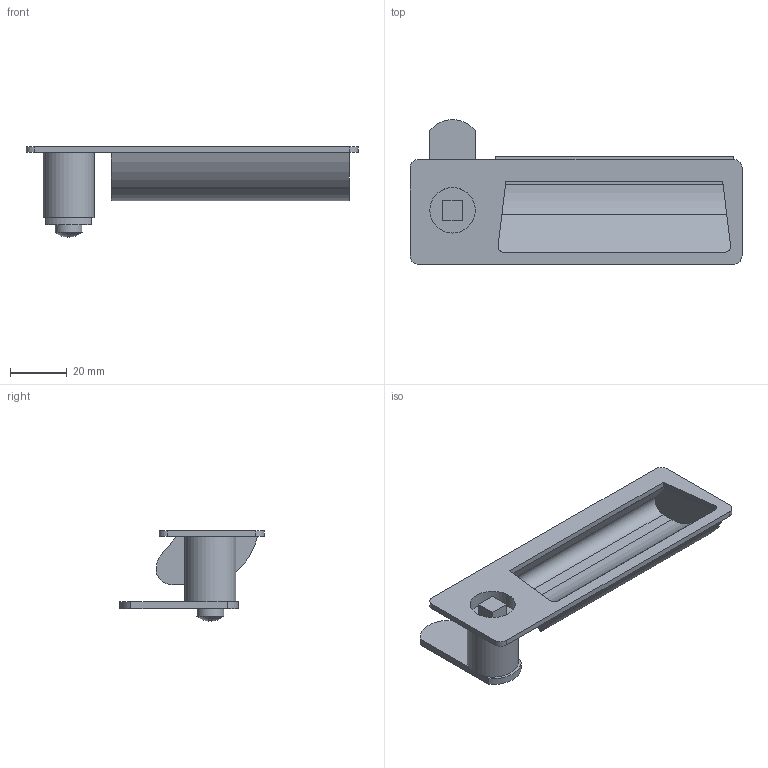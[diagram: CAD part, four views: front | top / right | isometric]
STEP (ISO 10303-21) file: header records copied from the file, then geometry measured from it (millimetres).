
FILE_DESCRIPTION( ( 'STEP AP203' ), '1' );
FILE_NAME( 'C:/Temp/Ganter_Step_05_03_2020/data/3_3/gn731_5/gn731_5_1/Latche with gripping tray GN 731.5-VK-0-32-1-SG (0-23).stp', '2020-03-12T11:49:19', ( 'License CC BY-ND 4.0' ), ( 'CADENAS' ), ' ', 'PARTsolutions', ' ' );
FILE_SCHEMA( ( 'CONFIG_CONTROL_DESIGN' ) );
Length unit declared in the file: millimetre
Products named in the file (3): Latche with gripping tray GN 731.5-VK-0-32-1-SG (0-23); _Latche with gripping tray GN 731.5-VK-0-32-1-SG (0)_1; _Latche with gripping tray GN 731.5-VK-0-32-1-SG (0-23)_2
Assembly tree (2 placements, depth 2):
  Latche with gripping tray GN 731.5-VK-0-32-1-SG (0-23)
    _Latche with gripping tray GN 731.5-VK-0-32-1-SG (0)_1
    _Latche with gripping tray GN 731.5-VK-0-32-1-SG (0-23)_2
Bounding box: 117 x 50.96 x 31.88 mm (x, y, z)
Volume: 23843.7 mm3; surface area: 19991.1 mm2
Topology: 2 solids, 2 shells, 85 faces, 215 edges, 140 vertices
Faces by surface type: plane 64, cylinder 20, sphere 1
Full cylindrical faces by diameter (mm): 9.5 x1, 16 x1, 18 x1
Entity records: 2615 total; most frequent: DIRECTION 445, CARTESIAN_POINT 433, ORIENTED_EDGE 416, EDGE_CURVE 208, AXIS2_PLACEMENT_3D 149, LINE 147, VECTOR 147, VERTEX_POINT 137
